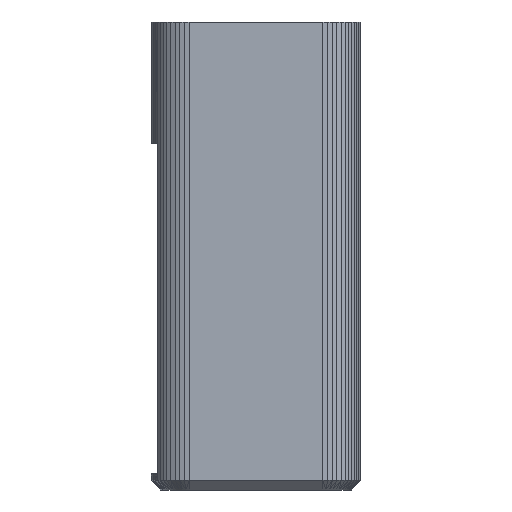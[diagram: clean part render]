
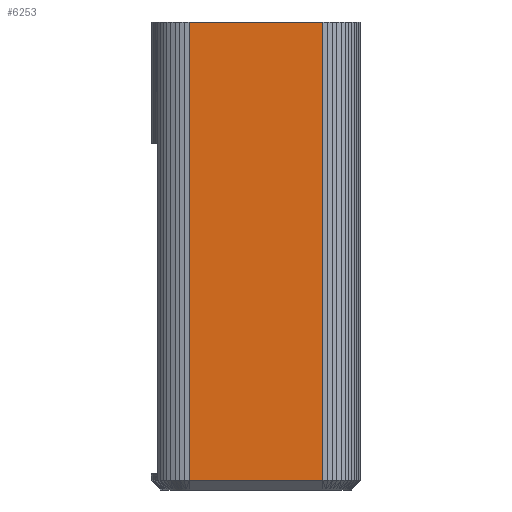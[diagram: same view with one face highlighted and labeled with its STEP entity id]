
A CAD part, left-side view. The second image highlights one B-rep face of the part: STEP entity #6253.
In plain terms, the highlighted planar face has unit normal (-1, 0, 0).
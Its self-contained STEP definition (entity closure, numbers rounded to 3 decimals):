
#800 = PLANE('',#801);
#801 = AXIS2_PLACEMENT_3D('',#802,#803,#804);
#802 = CARTESIAN_POINT('',(0.891,13.42,0.316)
  );
#803 = DIRECTION('',(-0.708,-0.,-0.706));
#804 = DIRECTION('',(0.706,0.,-0.708));
#1683 = VERTEX_POINT('',#1684);
#1684 = CARTESIAN_POINT('',(0.009,21.296,1.2));
#2256 = VERTEX_POINT('',#2257);
#2257 = CARTESIAN_POINT('',(0.009,4.704,1.2));
#2311 = EDGE_CURVE('',#1683,#2256,#2312,.T.);
#2312 = SURFACE_CURVE('',#2313,(#2317,#2324),.PCURVE_S1.);
#2313 = LINE('',#2314,#2315);
#2314 = CARTESIAN_POINT('',(0.009,21.296,1.2));
#2315 = VECTOR('',#2316,1.);
#2316 = DIRECTION('',(0.,-1.,0.));
#2317 = PCURVE('',#800,#2318);
#2318 = DEFINITIONAL_REPRESENTATION('',(#2319),#2323);
#2319 = LINE('',#2320,#2321);
#2320 = CARTESIAN_POINT('',(-1.249,-7.876));
#2321 = VECTOR('',#2322,1.);
#2322 = DIRECTION('',(0.,1.));
#2323 = ( GEOMETRIC_REPRESENTATION_CONTEXT(2) 
PARAMETRIC_REPRESENTATION_CONTEXT() REPRESENTATION_CONTEXT('2D SPACE',''
  ) );
#2324 = PCURVE('',#2325,#2330);
#2325 = PLANE('',#2326);
#2326 = AXIS2_PLACEMENT_3D('',#2327,#2328,#2329);
#2327 = CARTESIAN_POINT('',(0.009,16.555,26.045)
  );
#2328 = DIRECTION('',(-1.,-0.,-0.));
#2329 = DIRECTION('',(0.,0.,-1.));
#2330 = DEFINITIONAL_REPRESENTATION('',(#2331),#2335);
#2331 = LINE('',#2332,#2333);
#2332 = CARTESIAN_POINT('',(24.845,-4.742));
#2333 = VECTOR('',#2334,1.);
#2334 = DIRECTION('',(0.,1.));
#2335 = ( GEOMETRIC_REPRESENTATION_CONTEXT(2) 
PARAMETRIC_REPRESENTATION_CONTEXT() REPRESENTATION_CONTEXT('2D SPACE',''
  ) );
#2441 = PLANE('',#2442);
#2442 = AXIS2_PLACEMENT_3D('',#2443,#2444,#2445);
#2443 = CARTESIAN_POINT('',(0.061,21.737,
    29.453));
#2444 = DIRECTION('',(-0.993,0.118,-0.));
#2445 = DIRECTION('',(-0.118,-0.993,0.));
#3018 = PLANE('',#3019);
#3019 = AXIS2_PLACEMENT_3D('',#3020,#3021,#3022);
#3020 = CARTESIAN_POINT('',(0.026,4.556,
    29.453));
#3021 = DIRECTION('',(-0.993,-0.118,-0.));
#3022 = DIRECTION('',(0.118,-0.993,0.));
#6181 = EDGE_CURVE('',#2256,#6182,#6184,.T.);
#6182 = VERTEX_POINT('',#6183);
#6183 = CARTESIAN_POINT('',(0.009,4.704,58.));
#6184 = SURFACE_CURVE('',#6185,(#6189,#6196),.PCURVE_S1.);
#6185 = LINE('',#6186,#6187);
#6186 = CARTESIAN_POINT('',(0.009,4.704,1.2));
#6187 = VECTOR('',#6188,1.);
#6188 = DIRECTION('',(0.,0.,1.));
#6189 = PCURVE('',#3018,#6190);
#6190 = DEFINITIONAL_REPRESENTATION('',(#6191),#6195);
#6191 = LINE('',#6192,#6193);
#6192 = CARTESIAN_POINT('',(-0.149,-28.253));
#6193 = VECTOR('',#6194,1.);
#6194 = DIRECTION('',(0.,1.));
#6195 = ( GEOMETRIC_REPRESENTATION_CONTEXT(2) 
PARAMETRIC_REPRESENTATION_CONTEXT() REPRESENTATION_CONTEXT('2D SPACE',''
  ) );
#6196 = PCURVE('',#2325,#6197);
#6197 = DEFINITIONAL_REPRESENTATION('',(#6198),#6202);
#6198 = LINE('',#6199,#6200);
#6199 = CARTESIAN_POINT('',(24.845,11.851));
#6200 = VECTOR('',#6201,1.);
#6201 = DIRECTION('',(-1.,0.));
#6202 = ( GEOMETRIC_REPRESENTATION_CONTEXT(2) 
PARAMETRIC_REPRESENTATION_CONTEXT() REPRESENTATION_CONTEXT('2D SPACE',''
  ) );
#6242 = PLANE('',#6243);
#6243 = AXIS2_PLACEMENT_3D('',#6244,#6245,#6246);
#6244 = CARTESIAN_POINT('',(59.667,23.543,58.));
#6245 = DIRECTION('',(0.,0.,1.));
#6246 = DIRECTION('',(1.,0.,-0.));
#6253 = ADVANCED_FACE('',(#6254),#2325,.T.);
#6254 = FACE_BOUND('',#6255,.T.);
#6255 = EDGE_LOOP('',(#6256,#6279,#6280,#6281));
#6256 = ORIENTED_EDGE('',*,*,#6257,.F.);
#6257 = EDGE_CURVE('',#1683,#6258,#6260,.T.);
#6258 = VERTEX_POINT('',#6259);
#6259 = CARTESIAN_POINT('',(0.009,21.296,58.));
#6260 = SURFACE_CURVE('',#6261,(#6265,#6272),.PCURVE_S1.);
#6261 = LINE('',#6262,#6263);
#6262 = CARTESIAN_POINT('',(0.009,21.296,1.2));
#6263 = VECTOR('',#6264,1.);
#6264 = DIRECTION('',(0.,0.,1.));
#6265 = PCURVE('',#2325,#6266);
#6266 = DEFINITIONAL_REPRESENTATION('',(#6267),#6271);
#6267 = LINE('',#6268,#6269);
#6268 = CARTESIAN_POINT('',(24.845,-4.742));
#6269 = VECTOR('',#6270,1.);
#6270 = DIRECTION('',(-1.,0.));
#6271 = ( GEOMETRIC_REPRESENTATION_CONTEXT(2) 
PARAMETRIC_REPRESENTATION_CONTEXT() REPRESENTATION_CONTEXT('2D SPACE',''
  ) );
#6272 = PCURVE('',#2441,#6273);
#6273 = DEFINITIONAL_REPRESENTATION('',(#6274),#6278);
#6274 = LINE('',#6275,#6276);
#6275 = CARTESIAN_POINT('',(0.444,-28.253));
#6276 = VECTOR('',#6277,1.);
#6277 = DIRECTION('',(0.,1.));
#6278 = ( GEOMETRIC_REPRESENTATION_CONTEXT(2) 
PARAMETRIC_REPRESENTATION_CONTEXT() REPRESENTATION_CONTEXT('2D SPACE',''
  ) );
#6279 = ORIENTED_EDGE('',*,*,#2311,.T.);
#6280 = ORIENTED_EDGE('',*,*,#6181,.T.);
#6281 = ORIENTED_EDGE('',*,*,#6282,.T.);
#6282 = EDGE_CURVE('',#6182,#6258,#6283,.T.);
#6283 = SURFACE_CURVE('',#6284,(#6288,#6295),.PCURVE_S1.);
#6284 = LINE('',#6285,#6286);
#6285 = CARTESIAN_POINT('',(0.009,4.704,58.));
#6286 = VECTOR('',#6287,1.);
#6287 = DIRECTION('',(0.,1.,0.));
#6288 = PCURVE('',#2325,#6289);
#6289 = DEFINITIONAL_REPRESENTATION('',(#6290),#6294);
#6290 = LINE('',#6291,#6292);
#6291 = CARTESIAN_POINT('',(-31.955,11.851));
#6292 = VECTOR('',#6293,1.);
#6293 = DIRECTION('',(0.,-1.));
#6294 = ( GEOMETRIC_REPRESENTATION_CONTEXT(2) 
PARAMETRIC_REPRESENTATION_CONTEXT() REPRESENTATION_CONTEXT('2D SPACE',''
  ) );
#6295 = PCURVE('',#6242,#6296);
#6296 = DEFINITIONAL_REPRESENTATION('',(#6297),#6301);
#6297 = LINE('',#6298,#6299);
#6298 = CARTESIAN_POINT('',(-59.658,-18.839));
#6299 = VECTOR('',#6300,1.);
#6300 = DIRECTION('',(0.,1.));
#6301 = ( GEOMETRIC_REPRESENTATION_CONTEXT(2) 
PARAMETRIC_REPRESENTATION_CONTEXT() REPRESENTATION_CONTEXT('2D SPACE',''
  ) );
